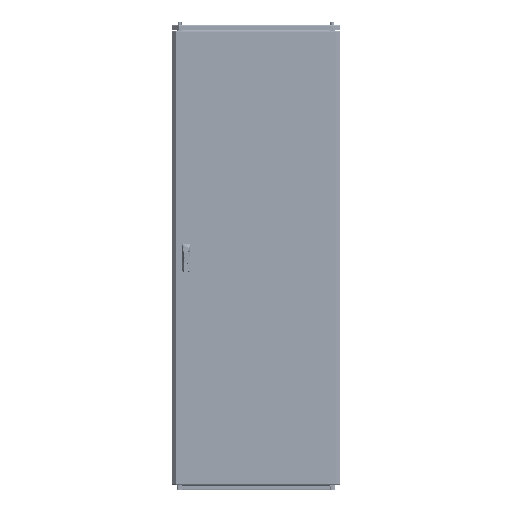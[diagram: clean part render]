
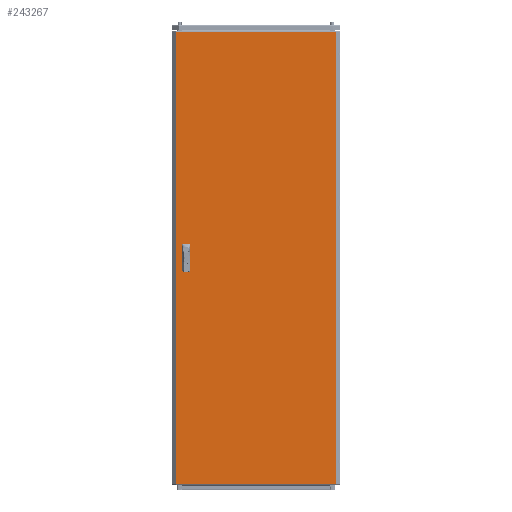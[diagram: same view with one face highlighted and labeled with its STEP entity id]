
A CAD part, top view. The second image highlights one B-rep face of the part: STEP entity #243267.
In plain terms, the highlighted planar face has unit normal (0, 0, 1).
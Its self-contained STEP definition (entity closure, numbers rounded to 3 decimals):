
#3483 = CARTESIAN_POINT ( 'NONE',  ( -377.875, -1069.5, 0. ) ) ;
#5370 = LINE ( 'NONE', #241499, #116368 ) ;
#5999 = FACE_BOUND ( 'NONE', #173623, .T. ) ;
#10404 = CARTESIAN_POINT ( 'NONE',  ( -342.5, 62.5, 0. ) ) ;
#11142 = CARTESIAN_POINT ( 'NONE',  ( -342.5, 62.5, 0. ) ) ;
#13399 = LINE ( 'NONE', #94645, #127978 ) ;
#20514 = VERTEX_POINT ( 'NONE', #78162 ) ;
#23451 = VECTOR ( 'NONE', #219815, 1000. ) ;
#23898 = CARTESIAN_POINT ( 'NONE',  ( -342.5, 12.5, 0. ) ) ;
#26031 = ORIENTED_EDGE ( 'NONE', *, *, #236607, .T. ) ;
#29514 = CARTESIAN_POINT ( 'NONE',  ( -342.5, -62.5, 0. ) ) ;
#38192 = CARTESIAN_POINT ( 'NONE',  ( -342.5, -12.5, 0. ) ) ;
#40361 = VERTEX_POINT ( 'NONE', #118078 ) ;
#42916 = DIRECTION ( 'NONE',  ( 0., -1., 0. ) ) ;
#44685 = VERTEX_POINT ( 'NONE', #227999 ) ;
#47060 = CARTESIAN_POINT ( 'NONE',  ( -317.5, -62.5, 0. ) ) ;
#49636 = AXIS2_PLACEMENT_3D ( 'NONE', #225310, #67902, #245938 ) ;
#53433 = DIRECTION ( 'NONE',  ( 0., -1., 0. ) ) ;
#55398 = EDGE_CURVE ( 'NONE', #40361, #20514, #79101, .T. ) ;
#56796 = VECTOR ( 'NONE', #59700, 1000. ) ;
#57301 = CARTESIAN_POINT ( 'NONE',  ( 377.875, 1069.5, 0. ) ) ;
#59700 = DIRECTION ( 'NONE',  ( 0., -1., 0. ) ) ;
#63135 = EDGE_CURVE ( 'NONE', #20514, #138884, #165088, .T. ) ;
#65983 = DIRECTION ( 'NONE',  ( 1., 0., 0. ) ) ;
#66754 = ORIENTED_EDGE ( 'NONE', *, *, #94444, .F. ) ;
#67902 = DIRECTION ( 'NONE',  ( 0., 0., -1. ) ) ;
#71708 = VECTOR ( 'NONE', #101327, 1000. ) ;
#73403 = CARTESIAN_POINT ( 'NONE',  ( -317.5, -12.5, 0. ) ) ;
#77130 = EDGE_CURVE ( 'NONE', #122656, #106765, #217535, .T. ) ;
#78162 = CARTESIAN_POINT ( 'NONE',  ( -342.5, -62.5, 0. ) ) ;
#79101 = LINE ( 'NONE', #157862, #101010 ) ;
#80120 = CARTESIAN_POINT ( 'NONE',  ( -377.875, 1069.5, 0. ) ) ;
#82766 = CARTESIAN_POINT ( 'NONE',  ( 377.875, -1069.5, 0. ) ) ;
#86694 = EDGE_CURVE ( 'NONE', #143642, #122656, #179671, .T. ) ;
#89210 = ORIENTED_EDGE ( 'NONE', *, *, #166313, .T. ) ;
#92207 = EDGE_LOOP ( 'NONE', ( #26031, #89210, #125294, #139963 ) ) ;
#94444 = EDGE_CURVE ( 'NONE', #138884, #111761, #140111, .T. ) ;
#94645 = CARTESIAN_POINT ( 'NONE',  ( -377.875, -1069.5, 0. ) ) ;
#97544 = ORIENTED_EDGE ( 'NONE', *, *, #63135, .F. ) ;
#101010 = VECTOR ( 'NONE', #42916, 1000. ) ;
#101327 = DIRECTION ( 'NONE',  ( 0., 1., 0. ) ) ;
#102311 = EDGE_CURVE ( 'NONE', #227783, #143642, #128556, .T. ) ;
#105286 = FACE_BOUND ( 'NONE', #174836, .T. ) ;
#105885 = VECTOR ( 'NONE', #116892, 1000. ) ;
#106765 = VERTEX_POINT ( 'NONE', #114777 ) ;
#110051 = VECTOR ( 'NONE', #110751, 1000. ) ;
#110751 = DIRECTION ( 'NONE',  ( 1., 0., 0. ) ) ;
#111761 = VERTEX_POINT ( 'NONE', #73403 ) ;
#114777 = CARTESIAN_POINT ( 'NONE',  ( -317.5, 12.5, 0. ) ) ;
#116368 = VECTOR ( 'NONE', #65983, 1000. ) ;
#116892 = DIRECTION ( 'NONE',  ( -1., 0., 0. ) ) ;
#117706 = CARTESIAN_POINT ( 'NONE',  ( -342.5, 12.5, 0. ) ) ;
#118078 = CARTESIAN_POINT ( 'NONE',  ( -342.5, -12.5, 0. ) ) ;
#119838 = VERTEX_POINT ( 'NONE', #3483 ) ;
#122656 = VERTEX_POINT ( 'NONE', #204505 ) ;
#123983 = LINE ( 'NONE', #82766, #147409 ) ;
#125294 = ORIENTED_EDGE ( 'NONE', *, *, #130174, .T. ) ;
#127978 = VECTOR ( 'NONE', #53433, 1000. ) ;
#128556 = LINE ( 'NONE', #11142, #156869 ) ;
#130174 = EDGE_CURVE ( 'NONE', #188090, #119838, #13399, .T. ) ;
#134356 = VERTEX_POINT ( 'NONE', #57301 ) ;
#137673 = CARTESIAN_POINT ( 'NONE',  ( -317.5, -62.5, 0. ) ) ;
#138884 = VERTEX_POINT ( 'NONE', #137673 ) ;
#139963 = ORIENTED_EDGE ( 'NONE', *, *, #181044, .T. ) ;
#140111 = LINE ( 'NONE', #47060, #71708 ) ;
#143642 = VERTEX_POINT ( 'NONE', #10404 ) ;
#144156 = DIRECTION ( 'NONE',  ( -1., 0., 0. ) ) ;
#144825 = ORIENTED_EDGE ( 'NONE', *, *, #55398, .F. ) ;
#146633 = FACE_OUTER_BOUND ( 'NONE', #92207, .T. ) ;
#147409 = VECTOR ( 'NONE', #223355, 1000. ) ;
#148600 = VECTOR ( 'NONE', #241923, 1000. ) ;
#149470 = ORIENTED_EDGE ( 'NONE', *, *, #252894, .F. ) ;
#156706 = CARTESIAN_POINT ( 'NONE',  ( -317.5, 12.5, 0. ) ) ;
#156869 = VECTOR ( 'NONE', #144156, 1000. ) ;
#157862 = CARTESIAN_POINT ( 'NONE',  ( -342.5, -62.5, 0. ) ) ;
#165088 = LINE ( 'NONE', #29514, #110051 ) ;
#166313 = EDGE_CURVE ( 'NONE', #134356, #188090, #175702, .T. ) ;
#170349 = EDGE_CURVE ( 'NONE', #106765, #227783, #197989, .T. ) ;
#173318 = ORIENTED_EDGE ( 'NONE', *, *, #170349, .F. ) ;
#173623 = EDGE_LOOP ( 'NONE', ( #149470, #66754, #97544, #144825 ) ) ;
#174836 = EDGE_LOOP ( 'NONE', ( #228980, #173318, #251067, #240448 ) ) ;
#175702 = LINE ( 'NONE', #80120, #216791 ) ;
#179671 = LINE ( 'NONE', #117706, #56796 ) ;
#181044 = EDGE_CURVE ( 'NONE', #119838, #44685, #5370, .T. ) ;
#181419 = CARTESIAN_POINT ( 'NONE',  ( -377.875, 1069.5, 0. ) ) ;
#188090 = VERTEX_POINT ( 'NONE', #181419 ) ;
#197989 = LINE ( 'NONE', #156706, #23451 ) ;
#199434 = CARTESIAN_POINT ( 'NONE',  ( -317.5, 62.5, 0. ) ) ;
#200962 = PLANE ( 'NONE',  #49636 ) ;
#204505 = CARTESIAN_POINT ( 'NONE',  ( -342.5, 12.5, 0. ) ) ;
#216791 = VECTOR ( 'NONE', #219427, 1000. ) ;
#217535 = LINE ( 'NONE', #23898, #148600 ) ;
#219427 = DIRECTION ( 'NONE',  ( -1., 0., 0. ) ) ;
#219815 = DIRECTION ( 'NONE',  ( 0., 1., 0. ) ) ;
#223355 = DIRECTION ( 'NONE',  ( 0., 1., 0. ) ) ;
#225310 = CARTESIAN_POINT ( 'NONE',  ( 0., 0., 0. ) ) ;
#227783 = VERTEX_POINT ( 'NONE', #199434 ) ;
#227999 = CARTESIAN_POINT ( 'NONE',  ( 377.875, -1069.5, 0. ) ) ;
#228980 = ORIENTED_EDGE ( 'NONE', *, *, #102311, .F. ) ;
#236607 = EDGE_CURVE ( 'NONE', #44685, #134356, #123983, .T. ) ;
#240448 = ORIENTED_EDGE ( 'NONE', *, *, #86694, .F. ) ;
#240689 = LINE ( 'NONE', #38192, #105885 ) ;
#241499 = CARTESIAN_POINT ( 'NONE',  ( -377.875, -1069.5, 0. ) ) ;
#241923 = DIRECTION ( 'NONE',  ( 1., 0., 0. ) ) ;
#243267 = ADVANCED_FACE ( 'NONE', ( #105286, #5999, #146633 ), #200962, .F. ) ;
#245938 = DIRECTION ( 'NONE',  ( -1., 0., 0. ) ) ;
#251067 = ORIENTED_EDGE ( 'NONE', *, *, #77130, .F. ) ;
#252894 = EDGE_CURVE ( 'NONE', #111761, #40361, #240689, .T. ) ;
